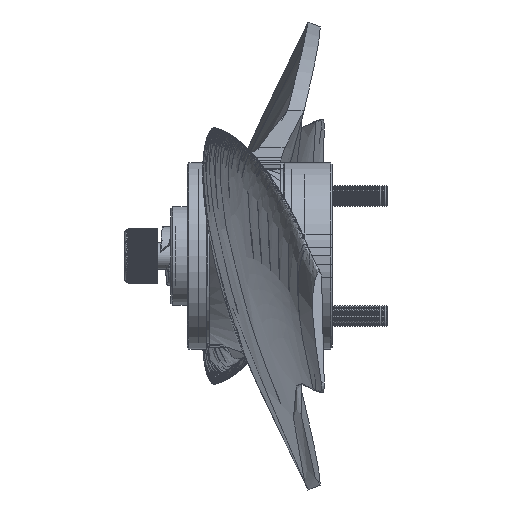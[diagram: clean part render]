
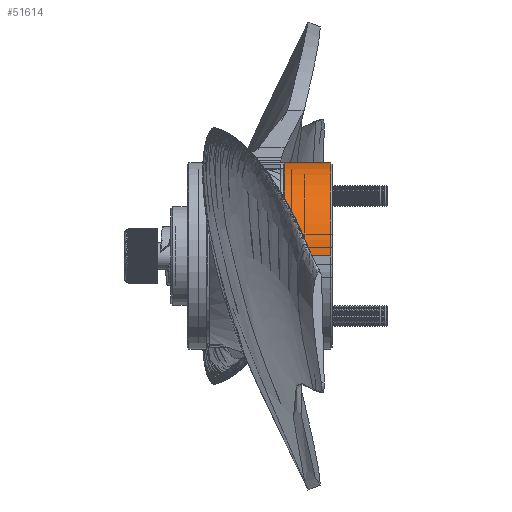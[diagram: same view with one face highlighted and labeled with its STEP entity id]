
A CAD part, left-side view. The second image highlights one B-rep face of the part: STEP entity #51614.
In plain terms, the highlighted cylindrical face has radius 17 mm (diameter 34 mm), a partial arc.
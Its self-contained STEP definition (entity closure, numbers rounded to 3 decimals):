
#4317 = ORIENTED_EDGE ( 'NONE', *, *, #83943, .T. ) ;
#5764 = EDGE_CURVE ( 'NONE', #114689, #74693, #90626, .T. ) ;
#12229 = CARTESIAN_POINT ( 'NONE',  ( -35., -8.7, 0. ) ) ;
#13843 = CARTESIAN_POINT ( 'NONE',  ( -35., -0.3, 17. ) ) ;
#25052 = VERTEX_POINT ( 'NONE', #82726 ) ;
#25358 = DIRECTION ( 'NONE',  ( 0., -1., 0. ) ) ;
#26552 = EDGE_LOOP ( 'NONE', ( #4317, #61595, #87843, #129431 ) ) ;
#27304 = DIRECTION ( 'NONE',  ( 1., 0., 0. ) ) ;
#31871 = CYLINDRICAL_SURFACE ( 'NONE', #135779, 17. ) ;
#32866 = VERTEX_POINT ( 'NONE', #39570 ) ;
#35578 = DIRECTION ( 'NONE',  ( 0., 1., 0. ) ) ;
#37944 = CARTESIAN_POINT ( 'NONE',  ( -35., -0.3, 0. ) ) ;
#39570 = CARTESIAN_POINT ( 'NONE',  ( -52., -0.3, 0. ) ) ;
#46753 = AXIS2_PLACEMENT_3D ( 'NONE', #37944, #124538, #27304 ) ;
#46890 = DIRECTION ( 'NONE',  ( 1., 0., 0. ) ) ;
#51614 = ADVANCED_FACE ( 'NONE', ( #75129 ), #31871, .T. ) ;
#61595 = ORIENTED_EDGE ( 'NONE', *, *, #100200, .T. ) ;
#68813 = CARTESIAN_POINT ( 'NONE',  ( -52., 0., 0. ) ) ;
#74693 = VERTEX_POINT ( 'NONE', #127494 ) ;
#75129 = FACE_OUTER_BOUND ( 'NONE', #26552, .T. ) ;
#82726 = CARTESIAN_POINT ( 'NONE',  ( -52., -8.7, 0. ) ) ;
#83943 = EDGE_CURVE ( 'NONE', #114689, #32866, #107993, .T. ) ;
#87843 = ORIENTED_EDGE ( 'NONE', *, *, #97381, .T. ) ;
#90626 = LINE ( 'NONE', #113300, #122599 ) ;
#95951 = AXIS2_PLACEMENT_3D ( 'NONE', #12229, #35578, #46890 ) ;
#97381 = EDGE_CURVE ( 'NONE', #25052, #74693, #107290, .T. ) ;
#100200 = EDGE_CURVE ( 'NONE', #32866, #25052, #136996, .T. ) ;
#105854 = VECTOR ( 'NONE', #112152, 1000. ) ;
#107290 = CIRCLE ( 'NONE', #95951, 17. ) ;
#107993 = CIRCLE ( 'NONE', #46753, 17. ) ;
#112152 = DIRECTION ( 'NONE',  ( 0., -1., 0. ) ) ;
#113300 = CARTESIAN_POINT ( 'NONE',  ( -35., 0., 17. ) ) ;
#114689 = VERTEX_POINT ( 'NONE', #13843 ) ;
#118468 = CARTESIAN_POINT ( 'NONE',  ( -35., 0., 0. ) ) ;
#122599 = VECTOR ( 'NONE', #25358, 1000. ) ;
#124538 = DIRECTION ( 'NONE',  ( 0., -1., 0. ) ) ;
#127494 = CARTESIAN_POINT ( 'NONE',  ( -35., -8.7, 17. ) ) ;
#129431 = ORIENTED_EDGE ( 'NONE', *, *, #5764, .F. ) ;
#129833 = DIRECTION ( 'NONE',  ( 0., -1., 0. ) ) ;
#135779 = AXIS2_PLACEMENT_3D ( 'NONE', #118468, #129833, #139789 ) ;
#136996 = LINE ( 'NONE', #68813, #105854 ) ;
#139789 = DIRECTION ( 'NONE',  ( -1., 0., 0. ) ) ;
